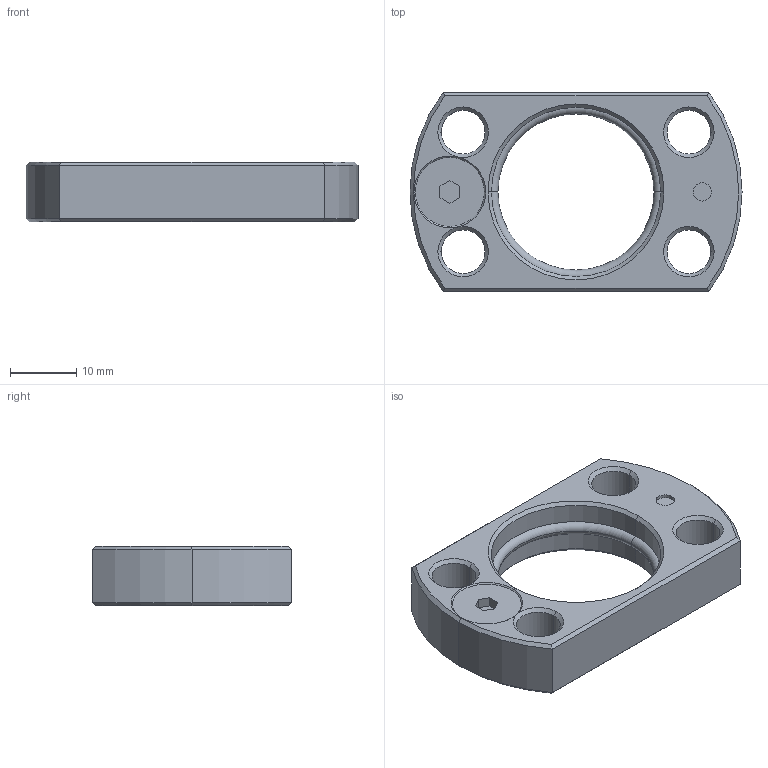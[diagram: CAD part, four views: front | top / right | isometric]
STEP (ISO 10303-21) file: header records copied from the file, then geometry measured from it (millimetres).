
FILE_DESCRIPTION(('CATIA V5 STEP Exchange'),'2;1');
FILE_NAME('W:\CATALOGO GENERAL 2018\FICHEROS CAD\023-BRIDAS\01-FS\FS 25.1.stp','2017-11-28T15:59:32+00:00',('none'),('none'),'CATIA Version 5 Release 17 (IN-10)','CATIA V5 STEP AP203','none');
FILE_SCHEMA(('CONFIG_CONTROL_DESIGN'));
Length unit declared in the file: millimetre
Products named in the file (1): FS 25.1
Bounding box: 50 x 30 x 9 mm (x, y, z)
Volume: 6790.5 mm3; surface area: 4227 mm2
Topology: 1 solids, 1 shells, 82 faces, 184 edges, 110 vertices
Faces by surface type: cone 32, plane 26, cylinder 20, torus 4
Entity records: 2254 total; most frequent: CARTESIAN_POINT 401, ORIENTED_EDGE 368, DIRECTION 340, EDGE_CURVE 184, AXIS2_PLACEMENT_3D 165, VERTEX_POINT 110, EDGE_LOOP 98, VECTOR 94
